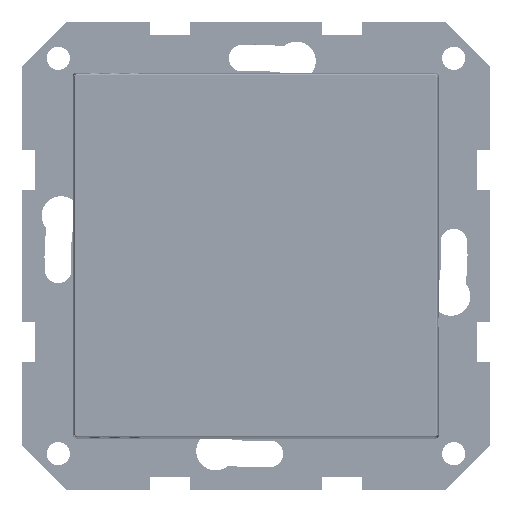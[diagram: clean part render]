
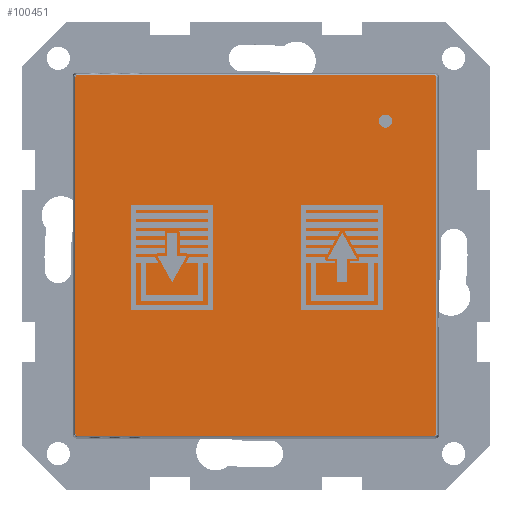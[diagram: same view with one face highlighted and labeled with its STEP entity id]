
A CAD part, top view. The second image highlights one B-rep face of the part: STEP entity #100451.
In plain terms, the highlighted planar face has unit normal (0, 0, 1).
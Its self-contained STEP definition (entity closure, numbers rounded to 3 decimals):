
#5641=CIRCLE('',#106824,0.3);
#5645=CIRCLE('',#106830,0.3);
#5649=CIRCLE('',#106836,0.3);
#5653=CIRCLE('',#106842,0.3);
#11691=FACE_OUTER_BOUND('',#17578,.T.);
#17578=EDGE_LOOP('',(#72533,#72534,#72535,#72536,#72537,#72538,#72539,#72540));
#25781=LINE('',#152075,#35038);
#25782=LINE('',#152083,#35039);
#25784=LINE('',#152095,#35041);
#25786=LINE('',#152104,#35043);
#35038=VECTOR('',#118162,53.976);
#35039=VECTOR('',#118173,53.976);
#35041=VECTOR('',#118187,53.976);
#35043=VECTOR('',#118199,53.976);
#44265=VERTEX_POINT('',#152067);
#44266=VERTEX_POINT('',#152069);
#44267=VERTEX_POINT('',#152073);
#44268=VERTEX_POINT('',#152077);
#44269=VERTEX_POINT('',#152081);
#44270=VERTEX_POINT('',#152085);
#44272=VERTEX_POINT('',#152091);
#44274=VERTEX_POINT('',#152097);
#55627=EDGE_CURVE('',#44265,#44266,#5641,.T.);
#55630=EDGE_CURVE('',#44266,#44267,#25781,.T.);
#55632=EDGE_CURVE('',#44267,#44268,#5645,.T.);
#55634=EDGE_CURVE('',#44268,#44269,#25782,.T.);
#55637=EDGE_CURVE('',#44269,#44270,#5649,.T.);
#55640=EDGE_CURVE('',#44270,#44272,#25784,.T.);
#55643=EDGE_CURVE('',#44272,#44274,#5653,.T.);
#55645=EDGE_CURVE('',#44274,#44265,#25786,.T.);
#72533=ORIENTED_EDGE('',*,*,#55627,.F.);
#72534=ORIENTED_EDGE('',*,*,#55645,.F.);
#72535=ORIENTED_EDGE('',*,*,#55643,.F.);
#72536=ORIENTED_EDGE('',*,*,#55640,.F.);
#72537=ORIENTED_EDGE('',*,*,#55637,.F.);
#72538=ORIENTED_EDGE('',*,*,#55634,.F.);
#72539=ORIENTED_EDGE('',*,*,#55632,.F.);
#72540=ORIENTED_EDGE('',*,*,#55630,.F.);
#97150=PLANE('',#106847);
#100451=ADVANCED_FACE('',(#11691),#97150,.T.);
#106824=AXIS2_PLACEMENT_3D('',#152070,#118154,#118155);
#106830=AXIS2_PLACEMENT_3D('',#152079,#118167,#118168);
#106836=AXIS2_PLACEMENT_3D('',#152089,#118180,#118181);
#106842=AXIS2_PLACEMENT_3D('',#152101,#118194,#118195);
#106847=AXIS2_PLACEMENT_3D('',#152111,#118209,#118210);
#118154=DIRECTION('center_axis',(0.,0.,
-1.));
#118155=DIRECTION('ref_axis',(0.707,-0.707,0.));
#118162=DIRECTION('',(-1.,0.,0.));
#118167=DIRECTION('center_axis',(0.,0.,
-1.));
#118168=DIRECTION('ref_axis',(-0.707,-0.707,0.));
#118173=DIRECTION('',(0.,1.,0.));
#118180=DIRECTION('center_axis',(0.,0.,
-1.));
#118181=DIRECTION('ref_axis',(-0.707,0.707,0.));
#118187=DIRECTION('',(1.,0.,0.));
#118194=DIRECTION('center_axis',(0.,0.,
-1.));
#118195=DIRECTION('ref_axis',(0.707,0.707,0.));
#118199=DIRECTION('',(0.,-1.,0.));
#118209=DIRECTION('center_axis',(0.,0.,
1.));
#118210=DIRECTION('ref_axis',(1.,0.,0.));
#152067=CARTESIAN_POINT('',(27.288,-26.988,0.91));
#152069=CARTESIAN_POINT('',(26.988,-27.288,0.91));
#152070=CARTESIAN_POINT('Origin',(26.988,-26.988,0.91));
#152073=CARTESIAN_POINT('',(-26.988,-27.288,0.91));
#152075=CARTESIAN_POINT('',(26.988,-27.288,0.91));
#152077=CARTESIAN_POINT('',(-27.288,-26.988,0.91));
#152079=CARTESIAN_POINT('Origin',(-26.988,-26.988,0.91));
#152081=CARTESIAN_POINT('',(-27.288,26.988,0.91));
#152083=CARTESIAN_POINT('',(-27.288,-26.988,0.91));
#152085=CARTESIAN_POINT('',(-26.988,27.288,0.91));
#152089=CARTESIAN_POINT('Origin',(-26.988,26.988,0.91));
#152091=CARTESIAN_POINT('',(26.988,27.288,0.91));
#152095=CARTESIAN_POINT('',(-26.988,27.288,0.91));
#152097=CARTESIAN_POINT('',(27.288,26.988,0.91));
#152101=CARTESIAN_POINT('Origin',(26.988,26.988,0.91));
#152104=CARTESIAN_POINT('',(27.288,26.988,0.91));
#152111=CARTESIAN_POINT('Origin',(0.,0.,
0.91));
